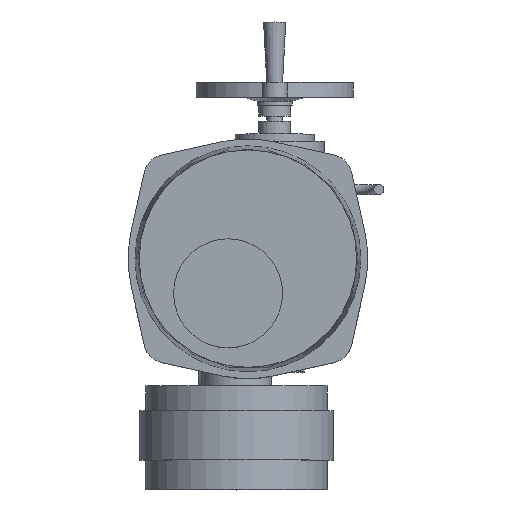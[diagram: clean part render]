
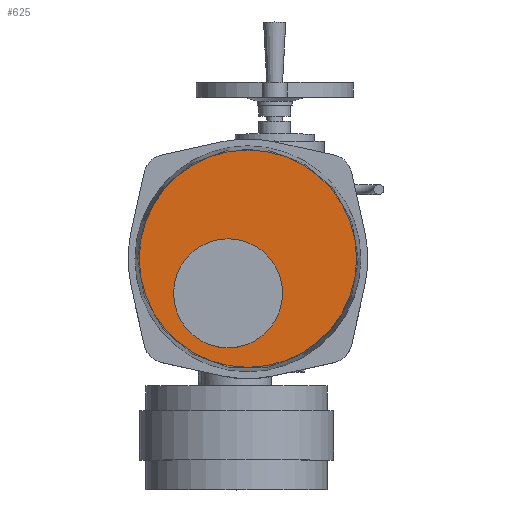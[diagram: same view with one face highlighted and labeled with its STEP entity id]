
A CAD part, top view. The second image highlights one B-rep face of the part: STEP entity #625.
In plain terms, the highlighted planar face has unit normal (0, 0, 1).
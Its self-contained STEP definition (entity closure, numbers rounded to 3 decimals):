
#625=ADVANCED_FACE('',(#8413,#8415),#8417,.T.);
#8413=FACE_BOUND('',#8414,.T.);
#8414=EDGE_LOOP('',(#14479));
#8415=FACE_BOUND('',#8416,.T.);
#8416=EDGE_LOOP('',(#14480));
#8417=PLANE('',#8418);
#8418=AXIS2_PLACEMENT_3D('',#8419,#8420,#8421);
#8419=CARTESIAN_POINT('',(20.,38.,519.));
#8420=DIRECTION('',(0.,0.,1.));
#8421=DIRECTION('',(-1.,0.,0.));
#14479=ORIENTED_EDGE('',*,*,#19252,.T.);
#14480=ORIENTED_EDGE('',*,*,#19255,.F.);
#19252=EDGE_CURVE('',#21834,#21834,#21835,.T.);
#19255=EDGE_CURVE('',#21840,#21840,#21841,.T.);
#21834=VERTEX_POINT('',#27019);
#21835=CIRCLE('',#27020,109.703);
#21840=VERTEX_POINT('',#27034);
#21841=CIRCLE('',#27035,55.);
#27019=CARTESIAN_POINT('',(-89.703,38.,519.));
#27020=AXIS2_PLACEMENT_3D('',#27021,#27022,#27023);
#27021=CARTESIAN_POINT('',(20.,38.,519.));
#27022=DIRECTION('',(0.,0.,1.));
#27023=DIRECTION('',(-1.,0.,0.));
#27034=CARTESIAN_POINT('',(-55.,3.,519.));
#27035=AXIS2_PLACEMENT_3D('',#27036,#27037,#27038);
#27036=CARTESIAN_POINT('',(0.,3.,519.));
#27037=DIRECTION('',(0.,0.,1.));
#27038=DIRECTION('',(-1.,0.,0.));
